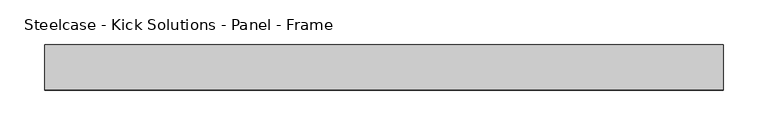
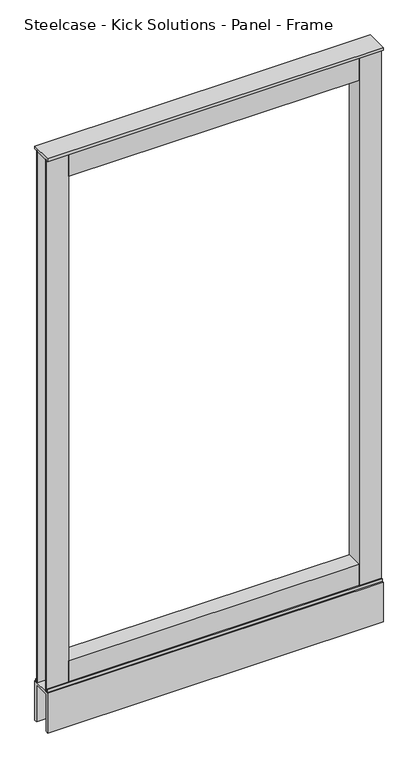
"""IFC4 building model written with IfcOpenShell, lengths in millimetres: furniture geometry, Steelcase - Kick Solutions - Panel - Frame : 54H x 30W."""

from ifc_helpers import new_model, si_unit, frame, origin, place, context, project, spatial, polyline, outline, extrude, source, transform, mapped, element, save


def steelcase_kick_solutions_panel_frame_58811114(model_context):
    return source(origin(), model_context, "Body", "SweptSolid", [
        extrude(outline(polyline([(50.8006646, 6.3506854), (50.8006646, -31.7493123), (0.0, -31.7493123), (0.0, -29.2093123), (48.2606646, -29.2093123), (48.2606646, 3.8106854), (0.0, 3.8106854), (0.0, 6.3506854), (50.8006646, 6.3506854)])), frame((0.0, 0.0, 95.25), z_axis=(0.0, 0.0, 1.0), x_axis=(1.0, 0.0, 0.0)), (0.0, 0.0, 1.0), 1276.35),
        extrude(outline(polyline([(711.2006661, 6.3506854), (762.0, 6.3506854), (762.0, 3.8106854), (713.7393354, 3.8106854), (713.7393354, -29.2093123), (762.0, -29.2093123), (762.0, -31.7493123), (711.2006661, -31.7493123), (711.2006661, 6.3506854)])), frame((0.0, 0.0, 95.25), z_axis=(0.0, 0.0, 1.0), x_axis=(1.0, 0.0, 0.0)), (0.0, 0.0, 1.0), 1276.35),
        extrude(outline(polyline([(6.3506854, 101.600003), (9.5256855, 101.600003), (9.5256855, 95.25), (8.409661, 95.25), (8.409661, 100.2902081), (6.3506854, 100.2902081), (6.3506854, 101.600003)])), frame((0.0, 0.0, 0.0), z_axis=(1.0, 0.0, 0.0), x_axis=(0.0, 1.0, 0.0)), (0.0, 0.0, 1.0), 762.0),
        extrude(outline(polyline([(-34.9243138, 101.600003), (-31.7493123, 101.600003), (-31.7493123, 100.2902081), (-33.8479845, 100.2902081), (-33.8479845, 95.25), (-34.9243138, 95.25), (-34.9243138, 101.600003)])), frame((0.0, 0.0, 0.0), z_axis=(1.0, 0.0, 0.0), x_axis=(0.0, 1.0, 0.0)), (0.0, 0.0, 1.0), 762.0),
        extrude(outline(polyline([(711.2006661, -31.7493123), (50.8006646, -31.7493123), (50.8006646, 6.3506854), (711.2006661, 6.3506854), (711.2006661, -31.7493123)])), frame((0.0, 0.0, 1314.4500242), z_axis=(0.0, 0.0, 1.0), x_axis=(1.0, 0.0, 0.0)), (0.0, 0.0, 1.0), 57.1499758),
        extrude(outline(polyline([(711.2006661, -31.7493123), (50.8006646, -31.7493123), (50.8006646, 6.3506854), (711.2006661, 6.3506854), (711.2006661, -31.7493123)])), frame((0.0, 0.0, 95.25), z_axis=(0.0, 0.0, 1.0), x_axis=(1.0, 0.0, 0.0)), (0.0, 0.0, 1.0), 57.15),
        extrude(outline(polyline([(762.0, 12.7000004), (762.0, -38.1000011), (0.0, -38.1000011), (0.0, 12.7000004), (762.0, 12.7000004)])), frame((0.0, 0.0, 1371.6), z_axis=(0.0, 0.0, 1.0), x_axis=(1.0, 0.0, 0.0)), (0.0, 0.0, 1.0), 6.35),
        extrude(outline(polyline([(-38.1000011, 95.25), (12.7000004, 95.25), (12.7000004, 0.0), (6.3506854, 0.0), (6.3506854, 88.9), (-31.7493123, 88.9), (-31.7493123, 0.0), (-38.1000011, 0.0), (-38.1000011, 95.25)])), frame((0.0, 0.0, 0.0), z_axis=(1.0, 0.0, 0.0), x_axis=(0.0, 1.0, 0.0)), (0.0, 0.0, 1.0), 762.0),
    ])


if __name__ == "__main__":
    model = new_model("IFC4")
    model_context = context("Model", 3, world=origin())
    ifc_project = project(units=[si_unit("LENGTHUNIT", "METRE", prefix="MILLI")], contexts=[model_context])
    site = spatial("IfcSite", under=ifc_project)
    building = spatial("IfcBuilding", under=site)
    placement = place(None, origin())
    steelcase_kick_solutions_panel_frame_shape = steelcase_kick_solutions_panel_frame_58811114(model_context)
    element("IfcFurniture", 1, ObjectType="Steelcase - Kick Solutions - Panel - Frame : 54H x 30W", at=placement, inside=building, context=model_context, shape_type="MappedRepresentation", body=[
        mapped(steelcase_kick_solutions_panel_frame_shape, transform((0.0, 0.0, 0.0), x_axis=(1.0, 0.0, 0.0), y_axis=(0.0, 1.0, 0.0), z_axis=(0.0, 0.0, 1.0))),
    ])
    save(model, "model.ifc")
